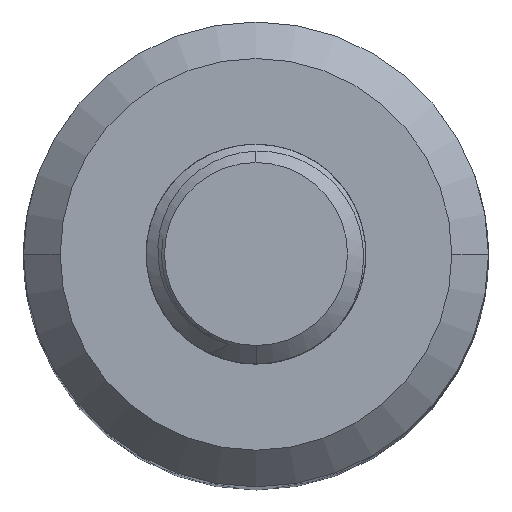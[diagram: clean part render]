
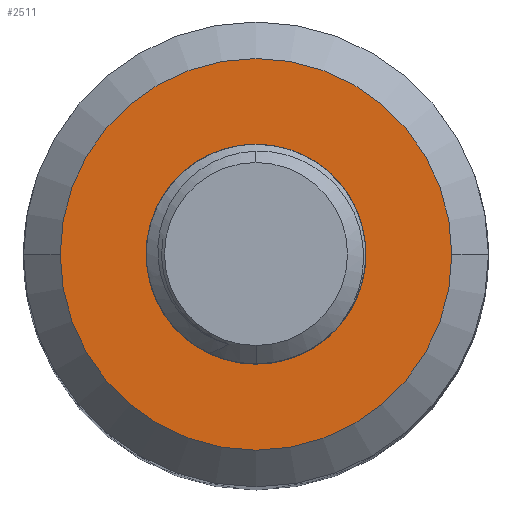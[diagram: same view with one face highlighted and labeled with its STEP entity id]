
A CAD part, top view. The second image highlights one B-rep face of the part: STEP entity #2511.
In plain terms, the highlighted planar face has unit normal (0, 0, 1).
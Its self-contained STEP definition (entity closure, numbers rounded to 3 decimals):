
#241=CARTESIAN_POINT('',(0.,0.,50.8));
#242=DIRECTION('',(0.,0.,1.));
#243=DIRECTION('',(-1.,0.,0.));
#244=AXIS2_PLACEMENT_3D('',#241,#242,#243);
#246=CARTESIAN_POINT('',(0.,0.,50.8));
#247=DIRECTION('',(0.,0.,1.));
#248=DIRECTION('',(1.,0.,0.));
#249=AXIS2_PLACEMENT_3D('',#246,#247,#248);
#251=CARTESIAN_POINT('',(0.,0.,50.8));
#252=DIRECTION('',(0.,0.,-1.));
#253=DIRECTION('',(0.,1.,0.));
#254=AXIS2_PLACEMENT_3D('',#251,#252,#253);
#256=CARTESIAN_POINT('',(0.,0.,50.8));
#257=DIRECTION('',(0.,0.,-1.));
#258=DIRECTION('',(0.,-1.,0.));
#259=AXIS2_PLACEMENT_3D('',#256,#257,#258);
#2144=CARTESIAN_POINT('',(-5.35,0.,50.8));
#2145=CARTESIAN_POINT('',(5.35,0.,50.8));
#2146=VERTEX_POINT('',#2144);
#2147=VERTEX_POINT('',#2145);
#2188=CARTESIAN_POINT('',(0.,2.,50.8));
#2189=CARTESIAN_POINT('',(0.,-2.,50.8));
#2190=VERTEX_POINT('',#2188);
#2191=VERTEX_POINT('',#2189);
#2495=CARTESIAN_POINT('',(0.,0.,50.8));
#2496=DIRECTION('',(0.,0.,1.));
#2497=DIRECTION('',(1.,0.,0.));
#2498=AXIS2_PLACEMENT_3D('',#2495,#2496,#2497);
#2499=PLANE('',#2498);
#2500=ORIENTED_EDGE('',*,*,#2485,.F.);
#2502=ORIENTED_EDGE('',*,*,#2501,.F.);
#2503=EDGE_LOOP('',(#2500,#2502));
#2504=FACE_OUTER_BOUND('',#2503,.F.);
#2506=ORIENTED_EDGE('',*,*,#2505,.F.);
#2508=ORIENTED_EDGE('',*,*,#2507,.F.);
#2509=EDGE_LOOP('',(#2506,#2508));
#2510=FACE_BOUND('',#2509,.F.);
#2511=ADVANCED_FACE('',(#2504,#2510),#2499,.T.);
#245=CIRCLE('',#244,5.35);
#250=CIRCLE('',#249,5.35);
#255=CIRCLE('',#254,2.);
#260=CIRCLE('',#259,2.);
#2485=EDGE_CURVE('',#2146,#2147,#245,.T.);
#2501=EDGE_CURVE('',#2147,#2146,#250,.T.);
#2505=EDGE_CURVE('',#2190,#2191,#255,.T.);
#2507=EDGE_CURVE('',#2191,#2190,#260,.T.);
